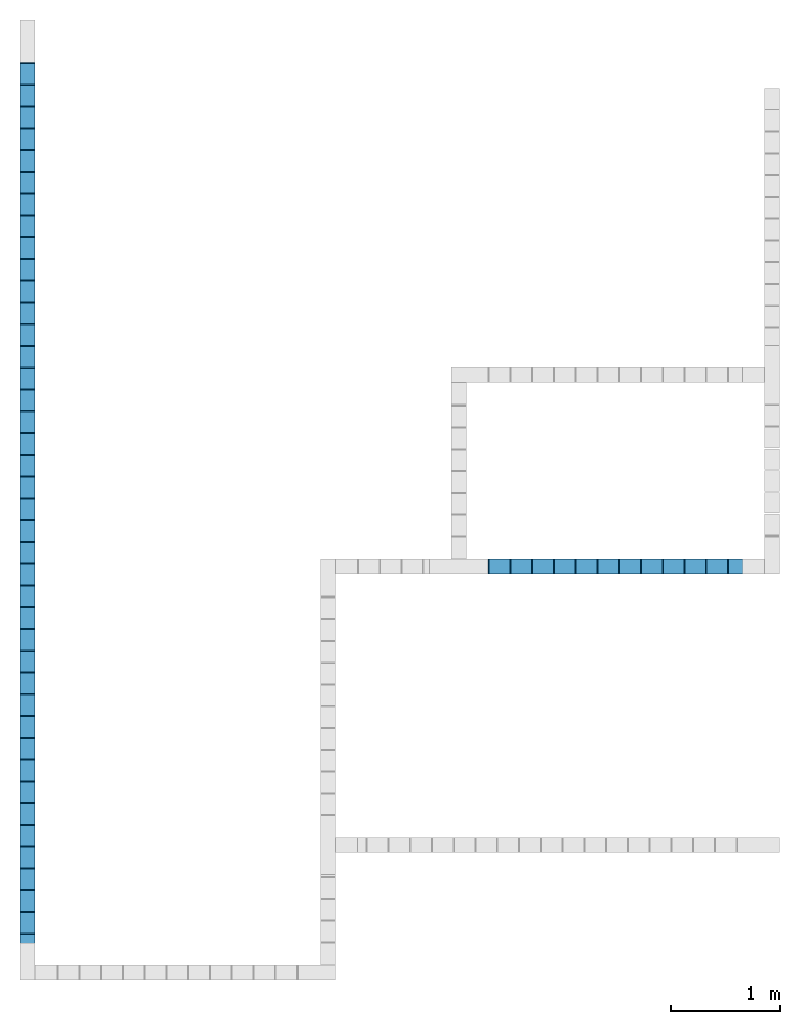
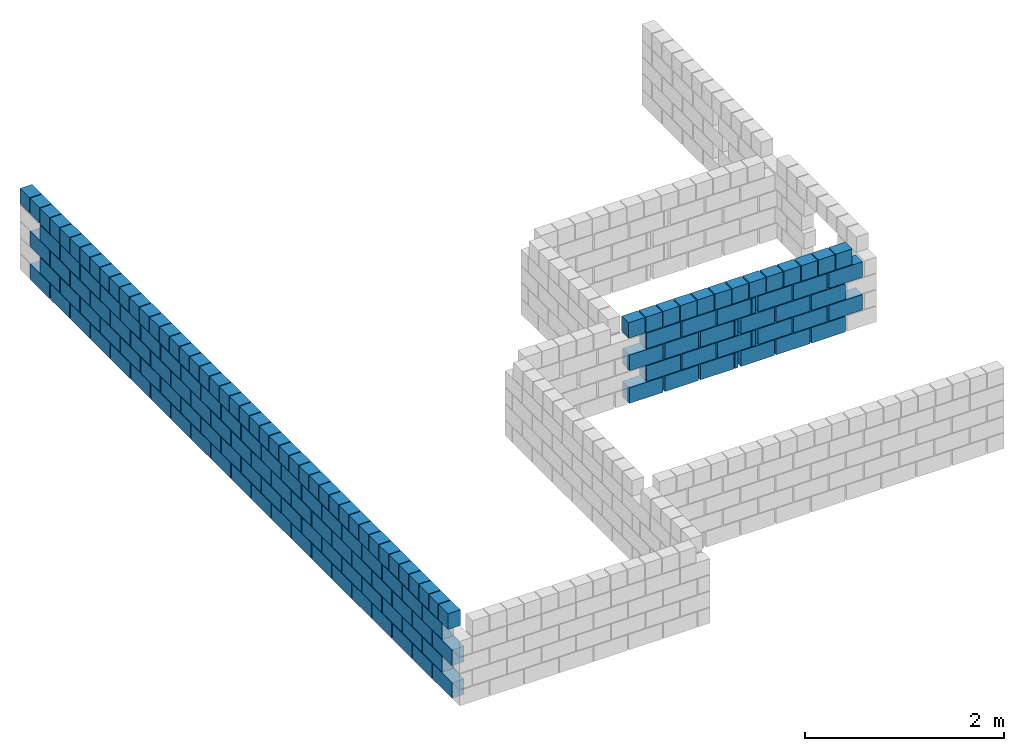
# One storey, part 2 of 3: 2 walls.
"""IFC4 building model written with IfcOpenShell, lengths in centimetres."""

from ifc_helpers import new_model, si_unit, derived_unit, frame, origin, origin_with_axes, origin_2d_with_axis, place, context, project, spatial, rectangle, extrude, element, save


model = new_model("IFC4")

# Units and contexts
model_context = context("Model", 3, precision=1e-05, world=origin_with_axes(), identifier="Body")
ifc_project = project(units=[si_unit("LENGTHUNIT", "METRE", prefix="CENTI"), si_unit("VOLUMEUNIT", "CUBIC_METRE"), si_unit("AREAUNIT", "SQUARE_METRE"), si_unit("POWERUNIT", "WATT"), si_unit("LUMINOUSFLUXUNIT", "LUMEN"), si_unit("ELECTRICCURRENTUNIT", "AMPERE"), si_unit("PRESSUREUNIT", "PASCAL", prefix="KILO"), si_unit("MASSUNIT", "GRAM", prefix="KILO"), si_unit("PLANEANGLEUNIT", "RADIAN"), derived_unit("VOLUMETRICFLOWRATEUNIT", [(si_unit("LENGTHUNIT", "METRE"), 3), (si_unit("TIMEUNIT", "SECOND"), -1)])], contexts=[model_context])

# Site, building, storey
site_placement = place(None, origin_with_axes())
site = spatial("IfcSite", under=ifc_project, at=site_placement)
building_placement = place(site_placement, origin())
building = spatial("IfcBuilding", under=site, at=building_placement)
placement = place(building_placement, origin_with_axes())
storey_placement = place(placement, frame((0.0, 0.0, 272.0), z_axis=(0.0, 0.0, 1.0), x_axis=(1.0, 0.0, 0.0)))
storey = spatial("IfcBuildingStorey", under=building, at=storey_placement, Name="LAJE", CompositionType="ELEMENT", Elevation=272.0)

# Walls
wall_1_placement = place(storey_placement, frame((547.51, 381.01, 99.0), z_axis=(0.0, 0.0, 1.0), x_axis=(1.0, 0.0, 0.0)))
element("IfcWall", 1, at=wall_1_placement, inside=storey, Name="PAR-LAJE-2", context=model_context, shape_type="SolidModel", body=[
    extrude(rectangle(XDim=39.0, YDim=14.0, at=origin_2d_with_axis()), frame((-115.0, 0.0, -99.0), z_axis=(0.0, 0.0, 1.0), x_axis=(1.0, 0.0, 0.0)), (0.0, 0.0, 1.0), 19.0),
    extrude(rectangle(XDim=39.0, YDim=14.0, at=origin_2d_with_axis()), frame((-74.0, 0.0, -99.0), z_axis=(0.0, 0.0, 1.0), x_axis=(1.0, 0.0, 0.0)), (0.0, 0.0, 1.0), 19.0),
    extrude(rectangle(XDim=39.0, YDim=14.0, at=origin_2d_with_axis()), frame((-33.0, 0.0, -99.0), z_axis=(0.0, 0.0, 1.0), x_axis=(1.0, 0.0, 0.0)), (0.0, 0.0, 1.0), 19.0),
    extrude(rectangle(XDim=39.0, YDim=14.0, at=origin_2d_with_axis()), frame((14.0, 0.0, -99.0), z_axis=(0.0, 0.0, 1.0), x_axis=(1.0, 0.0, 0.0)), (0.0, 0.0, 1.0), 19.0),
    extrude(rectangle(XDim=39.0, YDim=14.0, at=origin_2d_with_axis()), frame((55.0, 0.0, -99.0), z_axis=(0.0, 0.0, 1.0), x_axis=(1.0, 0.0, 0.0)), (0.0, 0.0, 1.0), 19.0),
    extrude(rectangle(XDim=39.0, YDim=14.0, at=origin_2d_with_axis()), frame((96.0, 0.0, -99.0), z_axis=(0.0, 0.0, 1.0), x_axis=(1.0, 0.0, 0.0)), (0.0, 0.0, 1.0), 19.0),
    extrude(rectangle(XDim=4.0, YDim=14.0, at=origin_2d_with_axis()), frame((-10.5, 0.0, -99.0), z_axis=(0.0, 0.0, 1.0), x_axis=(1.0, 0.0, 0.0)), (0.0, 0.0, 1.0), 19.0),
    extrude(rectangle(XDim=39.0, YDim=14.0, at=origin_2d_with_axis()), frame((-95.0, 0.0, -79.0), z_axis=(0.0, 0.0, 1.0), x_axis=(1.0, 0.0, 0.0)), (0.0, 0.0, 1.0), 19.0),
    extrude(rectangle(XDim=39.0, YDim=14.0, at=origin_2d_with_axis()), frame((-54.0, 0.0, -79.0), z_axis=(0.0, 0.0, 1.0), x_axis=(1.0, 0.0, 0.0)), (0.0, 0.0, 1.0), 19.0),
    extrude(rectangle(XDim=39.0, YDim=14.0, at=origin_2d_with_axis()), frame((-13.0, 0.0, -79.0), z_axis=(0.0, 0.0, 1.0), x_axis=(1.0, 0.0, 0.0)), (0.0, 0.0, 1.0), 19.0),
    extrude(rectangle(XDim=39.0, YDim=14.0, at=origin_2d_with_axis()), frame((34.0, 0.0, -79.0), z_axis=(0.0, 0.0, 1.0), x_axis=(1.0, 0.0, 0.0)), (0.0, 0.0, 1.0), 19.0),
    extrude(rectangle(XDim=39.0, YDim=14.0, at=origin_2d_with_axis()), frame((75.0, 0.0, -79.0), z_axis=(0.0, 0.0, 1.0), x_axis=(1.0, 0.0, 0.0)), (0.0, 0.0, 1.0), 19.0),
    extrude(rectangle(XDim=39.0, YDim=14.0, at=origin_2d_with_axis()), frame((116.0, 0.0, -79.0), z_axis=(0.0, 0.0, 1.0), x_axis=(1.0, 0.0, 0.0)), (0.0, 0.0, 1.0), 19.0),
    extrude(rectangle(XDim=4.0, YDim=14.0, at=origin_2d_with_axis()), frame((9.5, 0.0, -79.0), z_axis=(0.0, 0.0, 1.0), x_axis=(1.0, 0.0, 0.0)), (0.0, 0.0, 1.0), 19.0),
    extrude(rectangle(XDim=39.0, YDim=14.0, at=origin_2d_with_axis()), frame((-115.0, 0.0, -59.0), z_axis=(0.0, 0.0, 1.0), x_axis=(1.0, 0.0, 0.0)), (0.0, 0.0, 1.0), 19.0),
    extrude(rectangle(XDim=39.0, YDim=14.0, at=origin_2d_with_axis()), frame((-74.0, 0.0, -59.0), z_axis=(0.0, 0.0, 1.0), x_axis=(1.0, 0.0, 0.0)), (0.0, 0.0, 1.0), 19.0),
    extrude(rectangle(XDim=39.0, YDim=14.0, at=origin_2d_with_axis()), frame((-33.0, 0.0, -59.0), z_axis=(0.0, 0.0, 1.0), x_axis=(1.0, 0.0, 0.0)), (0.0, 0.0, 1.0), 19.0),
    extrude(rectangle(XDim=39.0, YDim=14.0, at=origin_2d_with_axis()), frame((14.0, 0.0, -59.0), z_axis=(0.0, 0.0, 1.0), x_axis=(1.0, 0.0, 0.0)), (0.0, 0.0, 1.0), 19.0),
    extrude(rectangle(XDim=39.0, YDim=14.0, at=origin_2d_with_axis()), frame((55.0, 0.0, -59.0), z_axis=(0.0, 0.0, 1.0), x_axis=(1.0, 0.0, 0.0)), (0.0, 0.0, 1.0), 19.0),
    extrude(rectangle(XDim=39.0, YDim=14.0, at=origin_2d_with_axis()), frame((96.0, 0.0, -59.0), z_axis=(0.0, 0.0, 1.0), x_axis=(1.0, 0.0, 0.0)), (0.0, 0.0, 1.0), 19.0),
    extrude(rectangle(XDim=4.0, YDim=14.0, at=origin_2d_with_axis()), frame((-10.5, 0.0, -59.0), z_axis=(0.0, 0.0, 1.0), x_axis=(1.0, 0.0, 0.0)), (0.0, 0.0, 1.0), 19.0),
    extrude(rectangle(XDim=39.0, YDim=14.0, at=origin_2d_with_axis()), frame((-95.0, 0.0, -39.0), z_axis=(0.0, 0.0, 1.0), x_axis=(1.0, 0.0, 0.0)), (0.0, 0.0, 1.0), 19.0),
    extrude(rectangle(XDim=39.0, YDim=14.0, at=origin_2d_with_axis()), frame((-54.0, 0.0, -39.0), z_axis=(0.0, 0.0, 1.0), x_axis=(1.0, 0.0, 0.0)), (0.0, 0.0, 1.0), 19.0),
    extrude(rectangle(XDim=39.0, YDim=14.0, at=origin_2d_with_axis()), frame((-13.0, 0.0, -39.0), z_axis=(0.0, 0.0, 1.0), x_axis=(1.0, 0.0, 0.0)), (0.0, 0.0, 1.0), 19.0),
    extrude(rectangle(XDim=39.0, YDim=14.0, at=origin_2d_with_axis()), frame((34.0, 0.0, -39.0), z_axis=(0.0, 0.0, 1.0), x_axis=(1.0, 0.0, 0.0)), (0.0, 0.0, 1.0), 19.0),
    extrude(rectangle(XDim=39.0, YDim=14.0, at=origin_2d_with_axis()), frame((75.0, 0.0, -39.0), z_axis=(0.0, 0.0, 1.0), x_axis=(1.0, 0.0, 0.0)), (0.0, 0.0, 1.0), 19.0),
    extrude(rectangle(XDim=39.0, YDim=14.0, at=origin_2d_with_axis()), frame((116.0, 0.0, -39.0), z_axis=(0.0, 0.0, 1.0), x_axis=(1.0, 0.0, 0.0)), (0.0, 0.0, 1.0), 19.0),
    extrude(rectangle(XDim=4.0, YDim=14.0, at=origin_2d_with_axis()), frame((9.5, 0.0, -39.0), z_axis=(0.0, 0.0, 1.0), x_axis=(1.0, 0.0, 0.0)), (0.0, 0.0, 1.0), 19.0),
    extrude(rectangle(XDim=19.0, YDim=14.0, at=origin_2d_with_axis()), frame((-126.0, 0.0, -19.0), z_axis=(0.0, 0.0, 1.0), x_axis=(1.0, 0.0, 0.0)), (0.0, 0.0, 1.0), 19.0),
    extrude(rectangle(XDim=19.0, YDim=14.0, at=origin_2d_with_axis()), frame((-106.0, 0.0, -19.0), z_axis=(0.0, 0.0, 1.0), x_axis=(1.0, 0.0, 0.0)), (0.0, 0.0, 1.0), 19.0),
    extrude(rectangle(XDim=19.0, YDim=14.0, at=origin_2d_with_axis()), frame((-86.0, 0.0, -19.0), z_axis=(0.0, 0.0, 1.0), x_axis=(1.0, 0.0, 0.0)), (0.0, 0.0, 1.0), 19.0),
    extrude(rectangle(XDim=19.0, YDim=14.0, at=origin_2d_with_axis()), frame((-66.0, 0.0, -19.0), z_axis=(0.0, 0.0, 1.0), x_axis=(1.0, 0.0, 0.0)), (0.0, 0.0, 1.0), 19.0),
    extrude(rectangle(XDim=19.0, YDim=14.0, at=origin_2d_with_axis()), frame((-46.0, 0.0, -19.0), z_axis=(0.0, 0.0, 1.0), x_axis=(1.0, 0.0, 0.0)), (0.0, 0.0, 1.0), 19.0),
    extrude(rectangle(XDim=19.0, YDim=14.0, at=origin_2d_with_axis()), frame((-26.0, 0.0, -19.0), z_axis=(0.0, 0.0, 1.0), x_axis=(1.0, 0.0, 0.0)), (0.0, 0.0, 1.0), 19.0),
    extrude(rectangle(XDim=19.0, YDim=14.0, at=origin_2d_with_axis()), frame((-6.0, 0.0, -19.0), z_axis=(0.0, 0.0, 1.0), x_axis=(1.0, 0.0, 0.0)), (0.0, 0.0, 1.0), 19.0),
    extrude(rectangle(XDim=19.0, YDim=14.0, at=origin_2d_with_axis()), frame((14.0, 0.0, -19.0), z_axis=(0.0, 0.0, 1.0), x_axis=(1.0, 0.0, 0.0)), (0.0, 0.0, 1.0), 19.0),
    extrude(rectangle(XDim=19.0, YDim=14.0, at=origin_2d_with_axis()), frame((34.0, 0.0, -19.0), z_axis=(0.0, 0.0, 1.0), x_axis=(1.0, 0.0, 0.0)), (0.0, 0.0, 1.0), 19.0),
    extrude(rectangle(XDim=19.0, YDim=14.0, at=origin_2d_with_axis()), frame((54.0, 0.0, -19.0), z_axis=(0.0, 0.0, 1.0), x_axis=(1.0, 0.0, 0.0)), (0.0, 0.0, 1.0), 19.0),
    extrude(rectangle(XDim=19.0, YDim=14.0, at=origin_2d_with_axis()), frame((74.0, 0.0, -19.0), z_axis=(0.0, 0.0, 1.0), x_axis=(1.0, 0.0, 0.0)), (0.0, 0.0, 1.0), 19.0),
    extrude(rectangle(XDim=19.0, YDim=14.0, at=origin_2d_with_axis()), frame((94.0, 0.0, -19.0), z_axis=(0.0, 0.0, 1.0), x_axis=(1.0, 0.0, 0.0)), (0.0, 0.0, 1.0), 19.0),
    extrude(rectangle(XDim=19.0, YDim=14.0, at=origin_2d_with_axis()), frame((114.0, 0.0, -19.0), z_axis=(0.0, 0.0, 1.0), x_axis=(1.0, 0.0, 0.0)), (0.0, 0.0, 1.0), 19.0),
])
wall_2_placement = place(storey_placement, frame((8.0, 449.68704545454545, 99.0), z_axis=(0.0, 0.0, 1.0), x_axis=(1.0, 0.0, 0.0)))
element("IfcWall", 2, at=wall_2_placement, inside=storey, Name="PAR-LAJE-5", context=model_context, shape_type="SolidModel", body=[
    extrude(rectangle(XDim=39.0, YDim=14.0, at=origin_2d_with_axis()), frame((0.0, -413.82295454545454, -99.0), z_axis=(0.0, 0.0, 1.0), x_axis=(0.0, 1.0, 0.0)), (0.0, 0.0, 1.0), 19.0),
    extrude(rectangle(XDim=39.0, YDim=14.0, at=origin_2d_with_axis()), frame((0.0, -373.4588636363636, -99.0), z_axis=(0.0, 0.0, 1.0), x_axis=(0.0, 1.0, 0.0)), (0.0, 0.0, 1.0), 19.0),
    extrude(rectangle(XDim=39.0, YDim=14.0, at=origin_2d_with_axis()), frame((0.0, -333.0947727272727, -99.0), z_axis=(0.0, 0.0, 1.0), x_axis=(0.0, 1.0, 0.0)), (0.0, 0.0, 1.0), 19.0),
    extrude(rectangle(XDim=39.0, YDim=14.0, at=origin_2d_with_axis()), frame((0.0, -292.7306818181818, -99.0), z_axis=(0.0, 0.0, 1.0), x_axis=(0.0, 1.0, 0.0)), (0.0, 0.0, 1.0), 19.0),
    extrude(rectangle(XDim=39.0, YDim=14.0, at=origin_2d_with_axis()), frame((0.0, -252.3665909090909, -99.0), z_axis=(0.0, 0.0, 1.0), x_axis=(0.0, 1.0, 0.0)), (0.0, 0.0, 1.0), 19.0),
    extrude(rectangle(XDim=39.0, YDim=14.0, at=origin_2d_with_axis()), frame((0.0, -212.0025, -99.0), z_axis=(0.0, 0.0, 1.0), x_axis=(0.0, 1.0, 0.0)), (0.0, 0.0, 1.0), 19.0),
    extrude(rectangle(XDim=39.0, YDim=14.0, at=origin_2d_with_axis()), frame((0.0, -171.63840909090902, -99.0), z_axis=(0.0, 0.0, 1.0), x_axis=(0.0, 1.0, 0.0)), (0.0, 0.0, 1.0), 19.0),
    extrude(rectangle(XDim=39.0, YDim=14.0, at=origin_2d_with_axis()), frame((0.0, -131.27431818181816, -99.0), z_axis=(0.0, 0.0, 1.0), x_axis=(0.0, 1.0, 0.0)), (0.0, 0.0, 1.0), 19.0),
    extrude(rectangle(XDim=39.0, YDim=14.0, at=origin_2d_with_axis()), frame((0.0, -90.91022727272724, -99.0), z_axis=(0.0, 0.0, 1.0), x_axis=(0.0, 1.0, 0.0)), (0.0, 0.0, 1.0), 19.0),
    extrude(rectangle(XDim=39.0, YDim=14.0, at=origin_2d_with_axis()), frame((0.0, -50.54613636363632, -99.0), z_axis=(0.0, 0.0, 1.0), x_axis=(0.0, 1.0, 0.0)), (0.0, 0.0, 1.0), 19.0),
    extrude(rectangle(XDim=39.0, YDim=14.0, at=origin_2d_with_axis()), frame((0.0, -10.182045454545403, -99.0), z_axis=(0.0, 0.0, 1.0), x_axis=(0.0, 1.0, 0.0)), (0.0, 0.0, 1.0), 19.0),
    extrude(rectangle(XDim=39.0, YDim=14.0, at=origin_2d_with_axis()), frame((0.0, 30.182045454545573, -99.0), z_axis=(0.0, 0.0, 1.0), x_axis=(0.0, 1.0, 0.0)), (0.0, 0.0, 1.0), 19.0),
    extrude(rectangle(XDim=39.0, YDim=14.0, at=origin_2d_with_axis()), frame((0.0, 70.54613636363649, -99.0), z_axis=(0.0, 0.0, 1.0), x_axis=(0.0, 1.0, 0.0)), (0.0, 0.0, 1.0), 19.0),
    extrude(rectangle(XDim=39.0, YDim=14.0, at=origin_2d_with_axis()), frame((0.0, 110.9102272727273, -99.0), z_axis=(0.0, 0.0, 1.0), x_axis=(0.0, 1.0, 0.0)), (0.0, 0.0, 1.0), 19.0),
    extrude(rectangle(XDim=39.0, YDim=14.0, at=origin_2d_with_axis()), frame((0.0, 151.27431818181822, -99.0), z_axis=(0.0, 0.0, 1.0), x_axis=(0.0, 1.0, 0.0)), (0.0, 0.0, 1.0), 19.0),
    extrude(rectangle(XDim=39.0, YDim=14.0, at=origin_2d_with_axis()), frame((0.0, 191.63840909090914, -99.0), z_axis=(0.0, 0.0, 1.0), x_axis=(0.0, 1.0, 0.0)), (0.0, 0.0, 1.0), 19.0),
    extrude(rectangle(XDim=39.0, YDim=14.0, at=origin_2d_with_axis()), frame((0.0, 232.0025, -99.0), z_axis=(0.0, 0.0, 1.0), x_axis=(0.0, 1.0, 0.0)), (0.0, 0.0, 1.0), 19.0),
    extrude(rectangle(XDim=39.0, YDim=14.0, at=origin_2d_with_axis()), frame((0.0, 272.366590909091, -99.0), z_axis=(0.0, 0.0, 1.0), x_axis=(0.0, 1.0, 0.0)), (0.0, 0.0, 1.0), 19.0),
    extrude(rectangle(XDim=39.0, YDim=14.0, at=origin_2d_with_axis()), frame((0.0, 312.7306818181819, -99.0), z_axis=(0.0, 0.0, 1.0), x_axis=(0.0, 1.0, 0.0)), (0.0, 0.0, 1.0), 19.0),
    extrude(rectangle(XDim=39.0, YDim=14.0, at=origin_2d_with_axis()), frame((0.0, 353.0947727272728, -99.0), z_axis=(0.0, 0.0, 1.0), x_axis=(0.0, 1.0, 0.0)), (0.0, 0.0, 1.0), 19.0),
    extrude(rectangle(XDim=39.0, YDim=14.0, at=origin_2d_with_axis()), frame((0.0, 393.45886363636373, -99.0), z_axis=(0.0, 0.0, 1.0), x_axis=(0.0, 1.0, 0.0)), (0.0, 0.0, 1.0), 19.0),
    extrude(rectangle(XDim=39.0, YDim=14.0, at=origin_2d_with_axis()), frame((0.0, -393.8056168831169, -79.0), z_axis=(0.0, 0.0, 1.0), x_axis=(0.0, 1.0, 0.0)), (0.0, 0.0, 1.0), 19.0),
    extrude(rectangle(XDim=39.0, YDim=14.0, at=origin_2d_with_axis()), frame((0.0, -353.42418831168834, -79.0), z_axis=(0.0, 0.0, 1.0), x_axis=(0.0, 1.0, 0.0)), (0.0, 0.0, 1.0), 19.0),
    extrude(rectangle(XDim=39.0, YDim=14.0, at=origin_2d_with_axis()), frame((0.0, -313.0427597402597, -79.0), z_axis=(0.0, 0.0, 1.0), x_axis=(0.0, 1.0, 0.0)), (0.0, 0.0, 1.0), 19.0),
    extrude(rectangle(XDim=39.0, YDim=14.0, at=origin_2d_with_axis()), frame((0.0, -272.66133116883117, -79.0), z_axis=(0.0, 0.0, 1.0), x_axis=(0.0, 1.0, 0.0)), (0.0, 0.0, 1.0), 19.0),
    extrude(rectangle(XDim=39.0, YDim=14.0, at=origin_2d_with_axis()), frame((0.0, -232.2799025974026, -79.0), z_axis=(0.0, 0.0, 1.0), x_axis=(0.0, 1.0, 0.0)), (0.0, 0.0, 1.0), 19.0),
    extrude(rectangle(XDim=39.0, YDim=14.0, at=origin_2d_with_axis()), frame((0.0, -191.89847402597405, -79.0), z_axis=(0.0, 0.0, 1.0), x_axis=(0.0, 1.0, 0.0)), (0.0, 0.0, 1.0), 19.0),
    extrude(rectangle(XDim=39.0, YDim=14.0, at=origin_2d_with_axis()), frame((0.0, -151.5170454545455, -79.0), z_axis=(0.0, 0.0, 1.0), x_axis=(0.0, 1.0, 0.0)), (0.0, 0.0, 1.0), 19.0),
    extrude(rectangle(XDim=39.0, YDim=14.0, at=origin_2d_with_axis()), frame((0.0, -111.13561688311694, -79.0), z_axis=(0.0, 0.0, 1.0), x_axis=(0.0, 1.0, 0.0)), (0.0, 0.0, 1.0), 19.0),
    extrude(rectangle(XDim=39.0, YDim=14.0, at=origin_2d_with_axis()), frame((0.0, -70.75418831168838, -79.0), z_axis=(0.0, 0.0, 1.0), x_axis=(0.0, 1.0, 0.0)), (0.0, 0.0, 1.0), 19.0),
    extrude(rectangle(XDim=39.0, YDim=14.0, at=origin_2d_with_axis()), frame((0.0, -30.372759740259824, -79.0), z_axis=(0.0, 0.0, 1.0), x_axis=(0.0, 1.0, 0.0)), (0.0, 0.0, 1.0), 19.0),
    extrude(rectangle(XDim=39.0, YDim=14.0, at=origin_2d_with_axis()), frame((0.0, 10.008668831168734, -79.0), z_axis=(0.0, 0.0, 1.0), x_axis=(0.0, 1.0, 0.0)), (0.0, 0.0, 1.0), 19.0),
    extrude(rectangle(XDim=39.0, YDim=14.0, at=origin_2d_with_axis()), frame((0.0, 50.390097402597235, -79.0), z_axis=(0.0, 0.0, 1.0), x_axis=(0.0, 1.0, 0.0)), (0.0, 0.0, 1.0), 19.0),
    extrude(rectangle(XDim=39.0, YDim=14.0, at=origin_2d_with_axis()), frame((0.0, 90.77152597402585, -79.0), z_axis=(0.0, 0.0, 1.0), x_axis=(0.0, 1.0, 0.0)), (0.0, 0.0, 1.0), 19.0),
    extrude(rectangle(XDim=39.0, YDim=14.0, at=origin_2d_with_axis()), frame((0.0, 131.15295454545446, -79.0), z_axis=(0.0, 0.0, 1.0), x_axis=(0.0, 1.0, 0.0)), (0.0, 0.0, 1.0), 19.0),
    extrude(rectangle(XDim=39.0, YDim=14.0, at=origin_2d_with_axis()), frame((0.0, 171.53438311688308, -79.0), z_axis=(0.0, 0.0, 1.0), x_axis=(0.0, 1.0, 0.0)), (0.0, 0.0, 1.0), 19.0),
    extrude(rectangle(XDim=39.0, YDim=14.0, at=origin_2d_with_axis()), frame((0.0, 211.9158116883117, -79.0), z_axis=(0.0, 0.0, 1.0), x_axis=(0.0, 1.0, 0.0)), (0.0, 0.0, 1.0), 19.0),
    extrude(rectangle(XDim=39.0, YDim=14.0, at=origin_2d_with_axis()), frame((0.0, 252.2972402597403, -79.0), z_axis=(0.0, 0.0, 1.0), x_axis=(0.0, 1.0, 0.0)), (0.0, 0.0, 1.0), 19.0),
    extrude(rectangle(XDim=39.0, YDim=14.0, at=origin_2d_with_axis()), frame((0.0, 292.6786688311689, -79.0), z_axis=(0.0, 0.0, 1.0), x_axis=(0.0, 1.0, 0.0)), (0.0, 0.0, 1.0), 19.0),
    extrude(rectangle(XDim=39.0, YDim=14.0, at=origin_2d_with_axis()), frame((0.0, 333.06009740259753, -79.0), z_axis=(0.0, 0.0, 1.0), x_axis=(0.0, 1.0, 0.0)), (0.0, 0.0, 1.0), 19.0),
    extrude(rectangle(XDim=39.0, YDim=14.0, at=origin_2d_with_axis()), frame((0.0, 373.44152597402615, -79.0), z_axis=(0.0, 0.0, 1.0), x_axis=(0.0, 1.0, 0.0)), (0.0, 0.0, 1.0), 19.0),
    extrude(rectangle(XDim=39.0, YDim=14.0, at=origin_2d_with_axis()), frame((0.0, -413.82295454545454, -59.0), z_axis=(0.0, 0.0, 1.0), x_axis=(0.0, 1.0, 0.0)), (0.0, 0.0, 1.0), 19.0),
    extrude(rectangle(XDim=39.0, YDim=14.0, at=origin_2d_with_axis()), frame((0.0, -373.4588636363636, -59.0), z_axis=(0.0, 0.0, 1.0), x_axis=(0.0, 1.0, 0.0)), (0.0, 0.0, 1.0), 19.0),
    extrude(rectangle(XDim=39.0, YDim=14.0, at=origin_2d_with_axis()), frame((0.0, -333.0947727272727, -59.0), z_axis=(0.0, 0.0, 1.0), x_axis=(0.0, 1.0, 0.0)), (0.0, 0.0, 1.0), 19.0),
    extrude(rectangle(XDim=39.0, YDim=14.0, at=origin_2d_with_axis()), frame((0.0, -292.7306818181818, -59.0), z_axis=(0.0, 0.0, 1.0), x_axis=(0.0, 1.0, 0.0)), (0.0, 0.0, 1.0), 19.0),
    extrude(rectangle(XDim=39.0, YDim=14.0, at=origin_2d_with_axis()), frame((0.0, -252.3665909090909, -59.0), z_axis=(0.0, 0.0, 1.0), x_axis=(0.0, 1.0, 0.0)), (0.0, 0.0, 1.0), 19.0),
    extrude(rectangle(XDim=39.0, YDim=14.0, at=origin_2d_with_axis()), frame((0.0, -212.0025, -59.0), z_axis=(0.0, 0.0, 1.0), x_axis=(0.0, 1.0, 0.0)), (0.0, 0.0, 1.0), 19.0),
    extrude(rectangle(XDim=39.0, YDim=14.0, at=origin_2d_with_axis()), frame((0.0, -171.63840909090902, -59.0), z_axis=(0.0, 0.0, 1.0), x_axis=(0.0, 1.0, 0.0)), (0.0, 0.0, 1.0), 19.0),
    extrude(rectangle(XDim=39.0, YDim=14.0, at=origin_2d_with_axis()), frame((0.0, -131.27431818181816, -59.0), z_axis=(0.0, 0.0, 1.0), x_axis=(0.0, 1.0, 0.0)), (0.0, 0.0, 1.0), 19.0),
    extrude(rectangle(XDim=39.0, YDim=14.0, at=origin_2d_with_axis()), frame((0.0, -90.91022727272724, -59.0), z_axis=(0.0, 0.0, 1.0), x_axis=(0.0, 1.0, 0.0)), (0.0, 0.0, 1.0), 19.0),
    extrude(rectangle(XDim=39.0, YDim=14.0, at=origin_2d_with_axis()), frame((0.0, -50.54613636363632, -59.0), z_axis=(0.0, 0.0, 1.0), x_axis=(0.0, 1.0, 0.0)), (0.0, 0.0, 1.0), 19.0),
    extrude(rectangle(XDim=39.0, YDim=14.0, at=origin_2d_with_axis()), frame((0.0, -10.182045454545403, -59.0), z_axis=(0.0, 0.0, 1.0), x_axis=(0.0, 1.0, 0.0)), (0.0, 0.0, 1.0), 19.0),
    extrude(rectangle(XDim=39.0, YDim=14.0, at=origin_2d_with_axis()), frame((0.0, 30.182045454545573, -59.0), z_axis=(0.0, 0.0, 1.0), x_axis=(0.0, 1.0, 0.0)), (0.0, 0.0, 1.0), 19.0),
    extrude(rectangle(XDim=39.0, YDim=14.0, at=origin_2d_with_axis()), frame((0.0, 70.54613636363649, -59.0), z_axis=(0.0, 0.0, 1.0), x_axis=(0.0, 1.0, 0.0)), (0.0, 0.0, 1.0), 19.0),
    extrude(rectangle(XDim=39.0, YDim=14.0, at=origin_2d_with_axis()), frame((0.0, 110.9102272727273, -59.0), z_axis=(0.0, 0.0, 1.0), x_axis=(0.0, 1.0, 0.0)), (0.0, 0.0, 1.0), 19.0),
    extrude(rectangle(XDim=39.0, YDim=14.0, at=origin_2d_with_axis()), frame((0.0, 151.27431818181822, -59.0), z_axis=(0.0, 0.0, 1.0), x_axis=(0.0, 1.0, 0.0)), (0.0, 0.0, 1.0), 19.0),
    extrude(rectangle(XDim=39.0, YDim=14.0, at=origin_2d_with_axis()), frame((0.0, 191.63840909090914, -59.0), z_axis=(0.0, 0.0, 1.0), x_axis=(0.0, 1.0, 0.0)), (0.0, 0.0, 1.0), 19.0),
    extrude(rectangle(XDim=39.0, YDim=14.0, at=origin_2d_with_axis()), frame((0.0, 232.0025, -59.0), z_axis=(0.0, 0.0, 1.0), x_axis=(0.0, 1.0, 0.0)), (0.0, 0.0, 1.0), 19.0),
    extrude(rectangle(XDim=39.0, YDim=14.0, at=origin_2d_with_axis()), frame((0.0, 272.366590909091, -59.0), z_axis=(0.0, 0.0, 1.0), x_axis=(0.0, 1.0, 0.0)), (0.0, 0.0, 1.0), 19.0),
    extrude(rectangle(XDim=39.0, YDim=14.0, at=origin_2d_with_axis()), frame((0.0, 312.7306818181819, -59.0), z_axis=(0.0, 0.0, 1.0), x_axis=(0.0, 1.0, 0.0)), (0.0, 0.0, 1.0), 19.0),
    extrude(rectangle(XDim=39.0, YDim=14.0, at=origin_2d_with_axis()), frame((0.0, 353.0947727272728, -59.0), z_axis=(0.0, 0.0, 1.0), x_axis=(0.0, 1.0, 0.0)), (0.0, 0.0, 1.0), 19.0),
    extrude(rectangle(XDim=39.0, YDim=14.0, at=origin_2d_with_axis()), frame((0.0, 393.45886363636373, -59.0), z_axis=(0.0, 0.0, 1.0), x_axis=(0.0, 1.0, 0.0)), (0.0, 0.0, 1.0), 19.0),
    extrude(rectangle(XDim=39.0, YDim=14.0, at=origin_2d_with_axis()), frame((0.0, -393.8056168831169, -39.0), z_axis=(0.0, 0.0, 1.0), x_axis=(0.0, 1.0, 0.0)), (0.0, 0.0, 1.0), 19.0),
    extrude(rectangle(XDim=39.0, YDim=14.0, at=origin_2d_with_axis()), frame((0.0, -353.42418831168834, -39.0), z_axis=(0.0, 0.0, 1.0), x_axis=(0.0, 1.0, 0.0)), (0.0, 0.0, 1.0), 19.0),
    extrude(rectangle(XDim=39.0, YDim=14.0, at=origin_2d_with_axis()), frame((0.0, -313.0427597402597, -39.0), z_axis=(0.0, 0.0, 1.0), x_axis=(0.0, 1.0, 0.0)), (0.0, 0.0, 1.0), 19.0),
    extrude(rectangle(XDim=39.0, YDim=14.0, at=origin_2d_with_axis()), frame((0.0, -272.66133116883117, -39.0), z_axis=(0.0, 0.0, 1.0), x_axis=(0.0, 1.0, 0.0)), (0.0, 0.0, 1.0), 19.0),
    extrude(rectangle(XDim=39.0, YDim=14.0, at=origin_2d_with_axis()), frame((0.0, -232.2799025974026, -39.0), z_axis=(0.0, 0.0, 1.0), x_axis=(0.0, 1.0, 0.0)), (0.0, 0.0, 1.0), 19.0),
    extrude(rectangle(XDim=39.0, YDim=14.0, at=origin_2d_with_axis()), frame((0.0, -191.89847402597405, -39.0), z_axis=(0.0, 0.0, 1.0), x_axis=(0.0, 1.0, 0.0)), (0.0, 0.0, 1.0), 19.0),
    extrude(rectangle(XDim=39.0, YDim=14.0, at=origin_2d_with_axis()), frame((0.0, -151.5170454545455, -39.0), z_axis=(0.0, 0.0, 1.0), x_axis=(0.0, 1.0, 0.0)), (0.0, 0.0, 1.0), 19.0),
    extrude(rectangle(XDim=39.0, YDim=14.0, at=origin_2d_with_axis()), frame((0.0, -111.13561688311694, -39.0), z_axis=(0.0, 0.0, 1.0), x_axis=(0.0, 1.0, 0.0)), (0.0, 0.0, 1.0), 19.0),
    extrude(rectangle(XDim=39.0, YDim=14.0, at=origin_2d_with_axis()), frame((0.0, -70.75418831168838, -39.0), z_axis=(0.0, 0.0, 1.0), x_axis=(0.0, 1.0, 0.0)), (0.0, 0.0, 1.0), 19.0),
    extrude(rectangle(XDim=39.0, YDim=14.0, at=origin_2d_with_axis()), frame((0.0, -30.372759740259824, -39.0), z_axis=(0.0, 0.0, 1.0), x_axis=(0.0, 1.0, 0.0)), (0.0, 0.0, 1.0), 19.0),
    extrude(rectangle(XDim=39.0, YDim=14.0, at=origin_2d_with_axis()), frame((0.0, 10.008668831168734, -39.0), z_axis=(0.0, 0.0, 1.0), x_axis=(0.0, 1.0, 0.0)), (0.0, 0.0, 1.0), 19.0),
    extrude(rectangle(XDim=39.0, YDim=14.0, at=origin_2d_with_axis()), frame((0.0, 50.390097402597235, -39.0), z_axis=(0.0, 0.0, 1.0), x_axis=(0.0, 1.0, 0.0)), (0.0, 0.0, 1.0), 19.0),
    extrude(rectangle(XDim=39.0, YDim=14.0, at=origin_2d_with_axis()), frame((0.0, 90.77152597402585, -39.0), z_axis=(0.0, 0.0, 1.0), x_axis=(0.0, 1.0, 0.0)), (0.0, 0.0, 1.0), 19.0),
    extrude(rectangle(XDim=39.0, YDim=14.0, at=origin_2d_with_axis()), frame((0.0, 131.15295454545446, -39.0), z_axis=(0.0, 0.0, 1.0), x_axis=(0.0, 1.0, 0.0)), (0.0, 0.0, 1.0), 19.0),
    extrude(rectangle(XDim=39.0, YDim=14.0, at=origin_2d_with_axis()), frame((0.0, 171.53438311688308, -39.0), z_axis=(0.0, 0.0, 1.0), x_axis=(0.0, 1.0, 0.0)), (0.0, 0.0, 1.0), 19.0),
    extrude(rectangle(XDim=39.0, YDim=14.0, at=origin_2d_with_axis()), frame((0.0, 211.9158116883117, -39.0), z_axis=(0.0, 0.0, 1.0), x_axis=(0.0, 1.0, 0.0)), (0.0, 0.0, 1.0), 19.0),
    extrude(rectangle(XDim=39.0, YDim=14.0, at=origin_2d_with_axis()), frame((0.0, 252.2972402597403, -39.0), z_axis=(0.0, 0.0, 1.0), x_axis=(0.0, 1.0, 0.0)), (0.0, 0.0, 1.0), 19.0),
    extrude(rectangle(XDim=39.0, YDim=14.0, at=origin_2d_with_axis()), frame((0.0, 292.6786688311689, -39.0), z_axis=(0.0, 0.0, 1.0), x_axis=(0.0, 1.0, 0.0)), (0.0, 0.0, 1.0), 19.0),
    extrude(rectangle(XDim=39.0, YDim=14.0, at=origin_2d_with_axis()), frame((0.0, 333.06009740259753, -39.0), z_axis=(0.0, 0.0, 1.0), x_axis=(0.0, 1.0, 0.0)), (0.0, 0.0, 1.0), 19.0),
    extrude(rectangle(XDim=39.0, YDim=14.0, at=origin_2d_with_axis()), frame((0.0, 373.44152597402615, -39.0), z_axis=(0.0, 0.0, 1.0), x_axis=(0.0, 1.0, 0.0)), (0.0, 0.0, 1.0), 19.0),
    extrude(rectangle(XDim=19.0, YDim=14.0, at=origin_2d_with_axis()), frame((0.0, -416.17704545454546, -19.0), z_axis=(0.0, 0.0, 1.0), x_axis=(0.0, 1.0, 0.0)), (0.0, 0.0, 1.0), 19.0),
    extrude(rectangle(XDim=19.0, YDim=14.0, at=origin_2d_with_axis()), frame((0.0, -396.17704545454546, -19.0), z_axis=(0.0, 0.0, 1.0), x_axis=(0.0, 1.0, 0.0)), (0.0, 0.0, 1.0), 19.0),
    extrude(rectangle(XDim=19.0, YDim=14.0, at=origin_2d_with_axis()), frame((0.0, -376.17704545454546, -19.0), z_axis=(0.0, 0.0, 1.0), x_axis=(0.0, 1.0, 0.0)), (0.0, 0.0, 1.0), 19.0),
    extrude(rectangle(XDim=19.0, YDim=14.0, at=origin_2d_with_axis()), frame((0.0, -356.17704545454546, -19.0), z_axis=(0.0, 0.0, 1.0), x_axis=(0.0, 1.0, 0.0)), (0.0, 0.0, 1.0), 19.0),
    extrude(rectangle(XDim=19.0, YDim=14.0, at=origin_2d_with_axis()), frame((0.0, -336.17704545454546, -19.0), z_axis=(0.0, 0.0, 1.0), x_axis=(0.0, 1.0, 0.0)), (0.0, 0.0, 1.0), 19.0),
    extrude(rectangle(XDim=19.0, YDim=14.0, at=origin_2d_with_axis()), frame((0.0, -316.17704545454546, -19.0), z_axis=(0.0, 0.0, 1.0), x_axis=(0.0, 1.0, 0.0)), (0.0, 0.0, 1.0), 19.0),
    extrude(rectangle(XDim=19.0, YDim=14.0, at=origin_2d_with_axis()), frame((0.0, -296.17704545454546, -19.0), z_axis=(0.0, 0.0, 1.0), x_axis=(0.0, 1.0, 0.0)), (0.0, 0.0, 1.0), 19.0),
    extrude(rectangle(XDim=19.0, YDim=14.0, at=origin_2d_with_axis()), frame((0.0, -276.17704545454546, -19.0), z_axis=(0.0, 0.0, 1.0), x_axis=(0.0, 1.0, 0.0)), (0.0, 0.0, 1.0), 19.0),
    extrude(rectangle(XDim=19.0, YDim=14.0, at=origin_2d_with_axis()), frame((0.0, -256.17704545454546, -19.0), z_axis=(0.0, 0.0, 1.0), x_axis=(0.0, 1.0, 0.0)), (0.0, 0.0, 1.0), 19.0),
    extrude(rectangle(XDim=19.0, YDim=14.0, at=origin_2d_with_axis()), frame((0.0, -236.17704545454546, -19.0), z_axis=(0.0, 0.0, 1.0), x_axis=(0.0, 1.0, 0.0)), (0.0, 0.0, 1.0), 19.0),
    extrude(rectangle(XDim=19.0, YDim=14.0, at=origin_2d_with_axis()), frame((0.0, -216.17704545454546, -19.0), z_axis=(0.0, 0.0, 1.0), x_axis=(0.0, 1.0, 0.0)), (0.0, 0.0, 1.0), 19.0),
    extrude(rectangle(XDim=19.0, YDim=14.0, at=origin_2d_with_axis()), frame((0.0, -196.17704545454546, -19.0), z_axis=(0.0, 0.0, 1.0), x_axis=(0.0, 1.0, 0.0)), (0.0, 0.0, 1.0), 19.0),
    extrude(rectangle(XDim=19.0, YDim=14.0, at=origin_2d_with_axis()), frame((0.0, -176.17704545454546, -19.0), z_axis=(0.0, 0.0, 1.0), x_axis=(0.0, 1.0, 0.0)), (0.0, 0.0, 1.0), 19.0),
    extrude(rectangle(XDim=19.0, YDim=14.0, at=origin_2d_with_axis()), frame((0.0, -156.17704545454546, -19.0), z_axis=(0.0, 0.0, 1.0), x_axis=(0.0, 1.0, 0.0)), (0.0, 0.0, 1.0), 19.0),
    extrude(rectangle(XDim=19.0, YDim=14.0, at=origin_2d_with_axis()), frame((0.0, -136.17704545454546, -19.0), z_axis=(0.0, 0.0, 1.0), x_axis=(0.0, 1.0, 0.0)), (0.0, 0.0, 1.0), 19.0),
    extrude(rectangle(XDim=19.0, YDim=14.0, at=origin_2d_with_axis()), frame((0.0, -116.17704545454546, -19.0), z_axis=(0.0, 0.0, 1.0), x_axis=(0.0, 1.0, 0.0)), (0.0, 0.0, 1.0), 19.0),
    extrude(rectangle(XDim=19.0, YDim=14.0, at=origin_2d_with_axis()), frame((0.0, -96.17704545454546, -19.0), z_axis=(0.0, 0.0, 1.0), x_axis=(0.0, 1.0, 0.0)), (0.0, 0.0, 1.0), 19.0),
    extrude(rectangle(XDim=19.0, YDim=14.0, at=origin_2d_with_axis()), frame((0.0, -76.17704545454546, -19.0), z_axis=(0.0, 0.0, 1.0), x_axis=(0.0, 1.0, 0.0)), (0.0, 0.0, 1.0), 19.0),
    extrude(rectangle(XDim=19.0, YDim=14.0, at=origin_2d_with_axis()), frame((0.0, -56.177045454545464, -19.0), z_axis=(0.0, 0.0, 1.0), x_axis=(0.0, 1.0, 0.0)), (0.0, 0.0, 1.0), 19.0),
    extrude(rectangle(XDim=19.0, YDim=14.0, at=origin_2d_with_axis()), frame((0.0, -36.177045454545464, -19.0), z_axis=(0.0, 0.0, 1.0), x_axis=(0.0, 1.0, 0.0)), (0.0, 0.0, 1.0), 19.0),
    extrude(rectangle(XDim=19.0, YDim=14.0, at=origin_2d_with_axis()), frame((0.0, -16.177045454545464, -19.0), z_axis=(0.0, 0.0, 1.0), x_axis=(0.0, 1.0, 0.0)), (0.0, 0.0, 1.0), 19.0),
    extrude(rectangle(XDim=19.0, YDim=14.0, at=origin_2d_with_axis()), frame((0.0, 3.822954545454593, -19.0), z_axis=(0.0, 0.0, 1.0), x_axis=(0.0, 1.0, 0.0)), (0.0, 0.0, 1.0), 19.0),
    extrude(rectangle(XDim=19.0, YDim=14.0, at=origin_2d_with_axis()), frame((0.0, 23.822954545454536, -19.0), z_axis=(0.0, 0.0, 1.0), x_axis=(0.0, 1.0, 0.0)), (0.0, 0.0, 1.0), 19.0),
    extrude(rectangle(XDim=19.0, YDim=14.0, at=origin_2d_with_axis()), frame((0.0, 43.822954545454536, -19.0), z_axis=(0.0, 0.0, 1.0), x_axis=(0.0, 1.0, 0.0)), (0.0, 0.0, 1.0), 19.0),
    extrude(rectangle(XDim=19.0, YDim=14.0, at=origin_2d_with_axis()), frame((0.0, 63.822954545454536, -19.0), z_axis=(0.0, 0.0, 1.0), x_axis=(0.0, 1.0, 0.0)), (0.0, 0.0, 1.0), 19.0),
    extrude(rectangle(XDim=19.0, YDim=14.0, at=origin_2d_with_axis()), frame((0.0, 83.82295454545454, -19.0), z_axis=(0.0, 0.0, 1.0), x_axis=(0.0, 1.0, 0.0)), (0.0, 0.0, 1.0), 19.0),
    extrude(rectangle(XDim=19.0, YDim=14.0, at=origin_2d_with_axis()), frame((0.0, 103.82295454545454, -19.0), z_axis=(0.0, 0.0, 1.0), x_axis=(0.0, 1.0, 0.0)), (0.0, 0.0, 1.0), 19.0),
    extrude(rectangle(XDim=19.0, YDim=14.0, at=origin_2d_with_axis()), frame((0.0, 123.82295454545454, -19.0), z_axis=(0.0, 0.0, 1.0), x_axis=(0.0, 1.0, 0.0)), (0.0, 0.0, 1.0), 19.0),
    extrude(rectangle(XDim=19.0, YDim=14.0, at=origin_2d_with_axis()), frame((0.0, 143.82295454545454, -19.0), z_axis=(0.0, 0.0, 1.0), x_axis=(0.0, 1.0, 0.0)), (0.0, 0.0, 1.0), 19.0),
    extrude(rectangle(XDim=19.0, YDim=14.0, at=origin_2d_with_axis()), frame((0.0, 163.82295454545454, -19.0), z_axis=(0.0, 0.0, 1.0), x_axis=(0.0, 1.0, 0.0)), (0.0, 0.0, 1.0), 19.0),
    extrude(rectangle(XDim=19.0, YDim=14.0, at=origin_2d_with_axis()), frame((0.0, 183.82295454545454, -19.0), z_axis=(0.0, 0.0, 1.0), x_axis=(0.0, 1.0, 0.0)), (0.0, 0.0, 1.0), 19.0),
    extrude(rectangle(XDim=19.0, YDim=14.0, at=origin_2d_with_axis()), frame((0.0, 203.82295454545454, -19.0), z_axis=(0.0, 0.0, 1.0), x_axis=(0.0, 1.0, 0.0)), (0.0, 0.0, 1.0), 19.0),
    extrude(rectangle(XDim=19.0, YDim=14.0, at=origin_2d_with_axis()), frame((0.0, 223.82295454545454, -19.0), z_axis=(0.0, 0.0, 1.0), x_axis=(0.0, 1.0, 0.0)), (0.0, 0.0, 1.0), 19.0),
    extrude(rectangle(XDim=19.0, YDim=14.0, at=origin_2d_with_axis()), frame((0.0, 243.82295454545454, -19.0), z_axis=(0.0, 0.0, 1.0), x_axis=(0.0, 1.0, 0.0)), (0.0, 0.0, 1.0), 19.0),
    extrude(rectangle(XDim=19.0, YDim=14.0, at=origin_2d_with_axis()), frame((0.0, 263.82295454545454, -19.0), z_axis=(0.0, 0.0, 1.0), x_axis=(0.0, 1.0, 0.0)), (0.0, 0.0, 1.0), 19.0),
    extrude(rectangle(XDim=19.0, YDim=14.0, at=origin_2d_with_axis()), frame((0.0, 283.82295454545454, -19.0), z_axis=(0.0, 0.0, 1.0), x_axis=(0.0, 1.0, 0.0)), (0.0, 0.0, 1.0), 19.0),
    extrude(rectangle(XDim=19.0, YDim=14.0, at=origin_2d_with_axis()), frame((0.0, 303.82295454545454, -19.0), z_axis=(0.0, 0.0, 1.0), x_axis=(0.0, 1.0, 0.0)), (0.0, 0.0, 1.0), 19.0),
    extrude(rectangle(XDim=19.0, YDim=14.0, at=origin_2d_with_axis()), frame((0.0, 323.82295454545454, -19.0), z_axis=(0.0, 0.0, 1.0), x_axis=(0.0, 1.0, 0.0)), (0.0, 0.0, 1.0), 19.0),
    extrude(rectangle(XDim=19.0, YDim=14.0, at=origin_2d_with_axis()), frame((0.0, 343.82295454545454, -19.0), z_axis=(0.0, 0.0, 1.0), x_axis=(0.0, 1.0, 0.0)), (0.0, 0.0, 1.0), 19.0),
    extrude(rectangle(XDim=19.0, YDim=14.0, at=origin_2d_with_axis()), frame((0.0, 363.82295454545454, -19.0), z_axis=(0.0, 0.0, 1.0), x_axis=(0.0, 1.0, 0.0)), (0.0, 0.0, 1.0), 19.0),
    extrude(rectangle(XDim=19.0, YDim=14.0, at=origin_2d_with_axis()), frame((0.0, 383.82295454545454, -19.0), z_axis=(0.0, 0.0, 1.0), x_axis=(0.0, 1.0, 0.0)), (0.0, 0.0, 1.0), 19.0),
    extrude(rectangle(XDim=19.0, YDim=14.0, at=origin_2d_with_axis()), frame((0.0, 403.82295454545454, -19.0), z_axis=(0.0, 0.0, 1.0), x_axis=(0.0, 1.0, 0.0)), (0.0, 0.0, 1.0), 19.0),
    extrude(rectangle(XDim=19.0, YDim=14.0, at=origin_2d_with_axis()), frame((0.0, 423.82295454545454, -19.0), z_axis=(0.0, 0.0, 1.0), x_axis=(0.0, 1.0, 0.0)), (0.0, 0.0, 1.0), 19.0),
])

save(model, "model.ifc")
